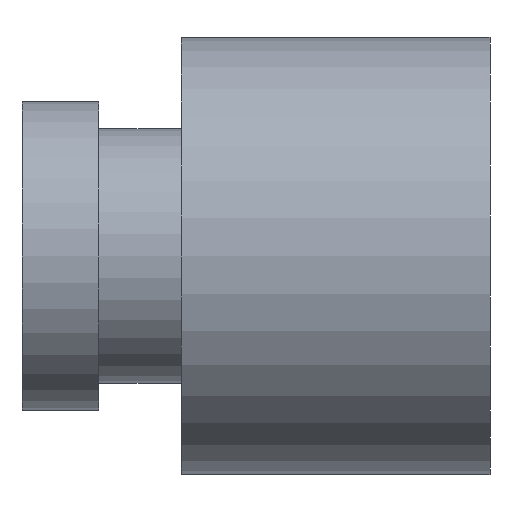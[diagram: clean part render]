
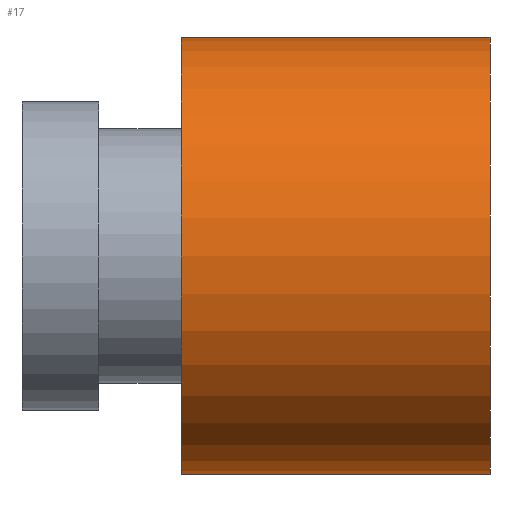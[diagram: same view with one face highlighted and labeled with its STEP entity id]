
A CAD part, front view. The second image highlights one B-rep face of the part: STEP entity #17.
In plain terms, the highlighted cylindrical face has radius 8.5 mm (diameter 17 mm), a full revolution.
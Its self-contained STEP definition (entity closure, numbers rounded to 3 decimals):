
#17 = ADVANCED_FACE('',(#18),#32,.T.);
#18 = FACE_BOUND('',#19,.F.);
#19 = EDGE_LOOP('',(#20,#50,#77,#78));
#20 = ORIENTED_EDGE('',*,*,#21,.T.);
#21 = EDGE_CURVE('',#22,#24,#26,.T.);
#22 = VERTEX_POINT('',#23);
#23 = CARTESIAN_POINT('',(87.9,-4.935,13.435));
#24 = VERTEX_POINT('',#25);
#25 = CARTESIAN_POINT('',(99.9,-4.935,13.435));
#26 = SEAM_CURVE('',#27,(#31,#43),.PCURVE_S1.);
#27 = LINE('',#28,#29);
#28 = CARTESIAN_POINT('',(87.9,-4.935,13.435));
#29 = VECTOR('',#30,1.);
#30 = DIRECTION('',(1.,0.,0.));
#31 = PCURVE('',#32,#37);
#32 = CYLINDRICAL_SURFACE('',#33,8.5);
#33 = AXIS2_PLACEMENT_3D('',#34,#35,#36);
#34 = CARTESIAN_POINT('',(87.9,-13.435,13.435));
#35 = DIRECTION('',(-1.,-0.,-0.));
#36 = DIRECTION('',(0.,1.,0.));
#37 = DEFINITIONAL_REPRESENTATION('',(#38),#42);
#38 = LINE('',#39,#40);
#39 = CARTESIAN_POINT('',(-0.,0.));
#40 = VECTOR('',#41,1.);
#41 = DIRECTION('',(-0.,-1.));
#42 = ( GEOMETRIC_REPRESENTATION_CONTEXT(2) 
PARAMETRIC_REPRESENTATION_CONTEXT() REPRESENTATION_CONTEXT('2D SPACE',''
  ) );
#43 = PCURVE('',#32,#44);
#44 = DEFINITIONAL_REPRESENTATION('',(#45),#49);
#45 = LINE('',#46,#47);
#46 = CARTESIAN_POINT('',(-6.283,0.));
#47 = VECTOR('',#48,1.);
#48 = DIRECTION('',(-0.,-1.));
#49 = ( GEOMETRIC_REPRESENTATION_CONTEXT(2) 
PARAMETRIC_REPRESENTATION_CONTEXT() REPRESENTATION_CONTEXT('2D SPACE',''
  ) );
#50 = ORIENTED_EDGE('',*,*,#51,.T.);
#51 = EDGE_CURVE('',#24,#24,#52,.T.);
#52 = SURFACE_CURVE('',#53,(#58,#65),.PCURVE_S1.);
#53 = CIRCLE('',#54,8.5);
#54 = AXIS2_PLACEMENT_3D('',#55,#56,#57);
#55 = CARTESIAN_POINT('',(99.9,-13.435,13.435));
#56 = DIRECTION('',(1.,0.,0.));
#57 = DIRECTION('',(0.,1.,0.));
#58 = PCURVE('',#32,#59);
#59 = DEFINITIONAL_REPRESENTATION('',(#60),#64);
#60 = LINE('',#61,#62);
#61 = CARTESIAN_POINT('',(-0.,-12.));
#62 = VECTOR('',#63,1.);
#63 = DIRECTION('',(-1.,0.));
#64 = ( GEOMETRIC_REPRESENTATION_CONTEXT(2) 
PARAMETRIC_REPRESENTATION_CONTEXT() REPRESENTATION_CONTEXT('2D SPACE',''
  ) );
#65 = PCURVE('',#66,#71);
#66 = PLANE('',#67);
#67 = AXIS2_PLACEMENT_3D('',#68,#69,#70);
#68 = CARTESIAN_POINT('',(99.9,-13.435,13.435));
#69 = DIRECTION('',(1.,0.,0.));
#70 = DIRECTION('',(-0.,0.,1.));
#71 = DEFINITIONAL_REPRESENTATION('',(#72),#76);
#72 = CIRCLE('',#73,8.5);
#73 = AXIS2_PLACEMENT_2D('',#74,#75);
#74 = CARTESIAN_POINT('',(0.,0.));
#75 = DIRECTION('',(0.,-1.));
#76 = ( GEOMETRIC_REPRESENTATION_CONTEXT(2) 
PARAMETRIC_REPRESENTATION_CONTEXT() REPRESENTATION_CONTEXT('2D SPACE',''
  ) );
#77 = ORIENTED_EDGE('',*,*,#21,.F.);
#78 = ORIENTED_EDGE('',*,*,#79,.F.);
#79 = EDGE_CURVE('',#22,#22,#80,.T.);
#80 = SURFACE_CURVE('',#81,(#86,#93),.PCURVE_S1.);
#81 = CIRCLE('',#82,8.5);
#82 = AXIS2_PLACEMENT_3D('',#83,#84,#85);
#83 = CARTESIAN_POINT('',(87.9,-13.435,13.435));
#84 = DIRECTION('',(1.,0.,0.));
#85 = DIRECTION('',(0.,1.,0.));
#86 = PCURVE('',#32,#87);
#87 = DEFINITIONAL_REPRESENTATION('',(#88),#92);
#88 = LINE('',#89,#90);
#89 = CARTESIAN_POINT('',(-0.,0.));
#90 = VECTOR('',#91,1.);
#91 = DIRECTION('',(-1.,0.));
#92 = ( GEOMETRIC_REPRESENTATION_CONTEXT(2) 
PARAMETRIC_REPRESENTATION_CONTEXT() REPRESENTATION_CONTEXT('2D SPACE',''
  ) );
#93 = PCURVE('',#94,#99);
#94 = PLANE('',#95);
#95 = AXIS2_PLACEMENT_3D('',#96,#97,#98);
#96 = CARTESIAN_POINT('',(87.9,-13.435,13.435));
#97 = DIRECTION('',(1.,0.,0.));
#98 = DIRECTION('',(-0.,0.,1.));
#99 = DEFINITIONAL_REPRESENTATION('',(#100),#104);
#100 = CIRCLE('',#101,8.5);
#101 = AXIS2_PLACEMENT_2D('',#102,#103);
#102 = CARTESIAN_POINT('',(0.,0.));
#103 = DIRECTION('',(0.,-1.));
#104 = ( GEOMETRIC_REPRESENTATION_CONTEXT(2) 
PARAMETRIC_REPRESENTATION_CONTEXT() REPRESENTATION_CONTEXT('2D SPACE',''
  ) );
